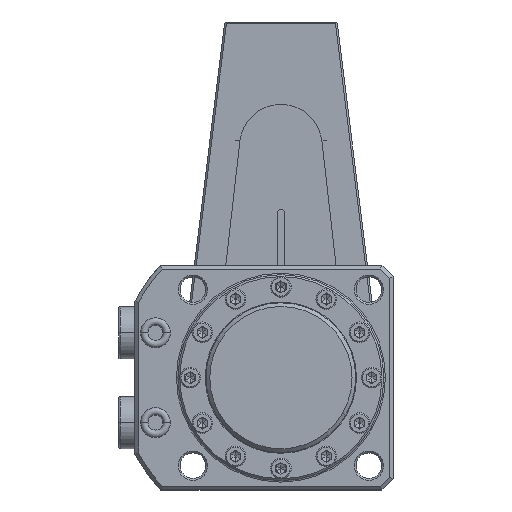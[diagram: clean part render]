
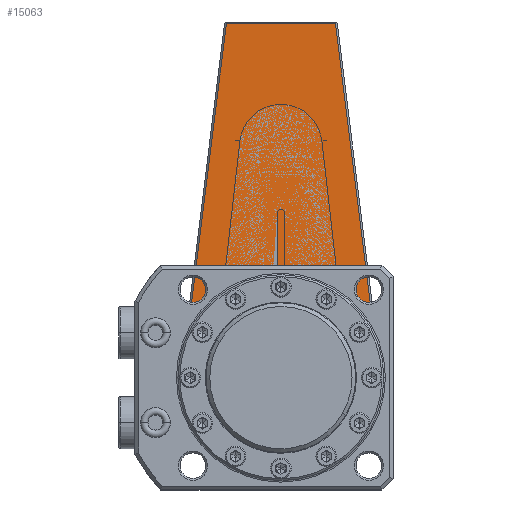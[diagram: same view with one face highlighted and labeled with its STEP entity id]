
A CAD part, front view. The second image highlights one B-rep face of the part: STEP entity #15063.
In plain terms, the highlighted planar face has unit normal (0, -1, 0).
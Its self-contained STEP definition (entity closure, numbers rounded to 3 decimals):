
#11821=DIRECTION('',(1.,0.,0.));
#11822=VECTOR('',#11821,16.31);
#11823=CARTESIAN_POINT('',(-29.5,-13.,1.));
#11824=LINE('',#11823,#11822);
#11825=DIRECTION('',(0.,0.,-1.));
#11826=VECTOR('',#11825,12.5);
#11827=CARTESIAN_POINT('',(-29.5,-13.,13.5));
#11828=LINE('',#11827,#11826);
#11829=DIRECTION('',(-0.707,0.,-0.707));
#11830=VECTOR('',#11829,1.414);
#11831=CARTESIAN_POINT('',(-28.5,-13.,14.5));
#11832=LINE('',#11831,#11830);
#11833=DIRECTION('',(-1.,0.,0.));
#11834=VECTOR('',#11833,24.);
#11835=CARTESIAN_POINT('',(-4.5,-13.,14.5));
#11836=LINE('',#11835,#11834);
#11837=DIRECTION('',(0.,0.,-1.));
#11838=VECTOR('',#11837,10.);
#11839=CARTESIAN_POINT('',(-4.5,-13.,24.5));
#11840=LINE('',#11839,#11838);
#11841=DIRECTION('',(-1.,0.,0.));
#11842=VECTOR('',#11841,19.469);
#11843=CARTESIAN_POINT('',(14.969,-13.,24.5));
#11844=LINE('',#11843,#11842);
#11845=DIRECTION('',(-0.992,0.,0.124));
#11846=VECTOR('',#11845,80.15);
#11847=CARTESIAN_POINT('',(94.5,-13.,14.559));
#11848=LINE('',#11847,#11846);
#11849=DIRECTION('',(0.,0.,1.));
#11850=VECTOR('',#11849,29.117);
#11851=CARTESIAN_POINT('',(94.5,-13.,-14.559));
#11852=LINE('',#11851,#11850);
#11853=DIRECTION('',(0.992,0.,0.124));
#11854=VECTOR('',#11853,80.15);
#11855=CARTESIAN_POINT('',(14.969,-13.,-24.5));
#11856=LINE('',#11855,#11854);
#11857=DIRECTION('',(1.,0.,0.));
#11858=VECTOR('',#11857,19.469);
#11859=CARTESIAN_POINT('',(-4.5,-13.,-24.5));
#11860=LINE('',#11859,#11858);
#11861=DIRECTION('',(0.,0.,-1.));
#11862=VECTOR('',#11861,10.);
#11863=CARTESIAN_POINT('',(-4.5,-13.,-14.5));
#11864=LINE('',#11863,#11862);
#11865=DIRECTION('',(1.,0.,0.));
#11866=VECTOR('',#11865,24.);
#11867=CARTESIAN_POINT('',(-28.5,-13.,-14.5));
#11868=LINE('',#11867,#11866);
#11869=DIRECTION('',(0.707,0.,-0.707));
#11870=VECTOR('',#11869,1.414);
#11871=CARTESIAN_POINT('',(-29.5,-13.,-13.5));
#11872=LINE('',#11871,#11870);
#11873=DIRECTION('',(0.,0.,-1.));
#11874=VECTOR('',#11873,12.5);
#11875=CARTESIAN_POINT('',(-29.5,-13.,-1.));
#11876=LINE('',#11875,#11874);
#11877=DIRECTION('',(1.,0.,0.));
#11878=VECTOR('',#11877,16.31);
#11879=CARTESIAN_POINT('',(-29.5,-13.,-1.));
#11880=LINE('',#11879,#11878);
#11886=CARTESIAN_POINT('',(0.,-13.,0.));
#11887=DIRECTION('',(0.,1.,0.));
#11888=DIRECTION('',(-0.997,0.,0.076));
#11889=AXIS2_PLACEMENT_3D('',#11886,#11887,#11888);
#11997=CARTESIAN_POINT('',(-13.19,-13.,
-1.));
#12177=CARTESIAN_POINT('',(-13.19,-13.,
1.));
#14733=CARTESIAN_POINT('',(-28.5,-13.,14.5));
#14735=VERTEX_POINT('',#14733);
#14739=CARTESIAN_POINT('',(-4.5,-13.,14.5));
#14740=VERTEX_POINT('',#14739);
#14745=CARTESIAN_POINT('',(94.5,-13.,-14.559));
#14746=CARTESIAN_POINT('',(94.5,-13.,14.559));
#14747=VERTEX_POINT('',#14745);
#14748=VERTEX_POINT('',#14746);
#14758=CARTESIAN_POINT('',(-28.5,-13.,-14.5));
#14760=VERTEX_POINT('',#14758);
#14761=CARTESIAN_POINT('',(-4.5,-13.,-14.5));
#14762=VERTEX_POINT('',#14761);
#14781=CARTESIAN_POINT('',(-29.5,-13.,-13.5));
#14783=VERTEX_POINT('',#14781);
#14787=CARTESIAN_POINT('',(-29.5,-13.,-1.));
#14788=VERTEX_POINT('',#14787);
#14789=CARTESIAN_POINT('',(-29.5,-13.,1.));
#14791=VERTEX_POINT('',#14789);
#14795=CARTESIAN_POINT('',(-29.5,-13.,13.5));
#14796=VERTEX_POINT('',#14795);
#14798=VERTEX_POINT('',#12177);
#14799=VERTEX_POINT('',#11997);
#14845=CARTESIAN_POINT('',(-4.5,-13.,-24.5));
#14846=VERTEX_POINT('',#14845);
#14847=CARTESIAN_POINT('',(14.969,-13.,-24.5));
#14848=VERTEX_POINT('',#14847);
#14873=CARTESIAN_POINT('',(14.969,-13.,24.5));
#14874=VERTEX_POINT('',#14873);
#14875=CARTESIAN_POINT('',(-4.5,-13.,24.5));
#14876=VERTEX_POINT('',#14875);
#15024=CARTESIAN_POINT('',(0.,-13.,0.));
#15025=DIRECTION('',(0.,1.,0.));
#15026=DIRECTION('',(1.,0.,0.));
#15027=AXIS2_PLACEMENT_3D('',#15024,#15025,#15026);
#15028=PLANE('',#15027);
#15030=ORIENTED_EDGE('',*,*,#15029,.F.);
#15032=ORIENTED_EDGE('',*,*,#15031,.F.);
#15034=ORIENTED_EDGE('',*,*,#15033,.F.);
#15036=ORIENTED_EDGE('',*,*,#15035,.F.);
#15038=ORIENTED_EDGE('',*,*,#15037,.F.);
#15040=ORIENTED_EDGE('',*,*,#15039,.F.);
#15042=ORIENTED_EDGE('',*,*,#15041,.F.);
#15044=ORIENTED_EDGE('',*,*,#15043,.F.);
#15046=ORIENTED_EDGE('',*,*,#15045,.F.);
#15048=ORIENTED_EDGE('',*,*,#15047,.F.);
#15050=ORIENTED_EDGE('',*,*,#15049,.F.);
#15052=ORIENTED_EDGE('',*,*,#15051,.F.);
#15054=ORIENTED_EDGE('',*,*,#15053,.F.);
#15056=ORIENTED_EDGE('',*,*,#15055,.F.);
#15058=ORIENTED_EDGE('',*,*,#15057,.F.);
#15060=ORIENTED_EDGE('',*,*,#15059,.T.);
#15061=EDGE_LOOP('',(#15030,#15032,#15034,#15036,#15038,#15040,#15042,#15044,
#15046,#15048,#15050,#15052,#15054,#15056,#15058,#15060));
#15062=FACE_OUTER_BOUND('',#15061,.F.);
#15063=ADVANCED_FACE('',(#15062),#15028,.F.);
#11890=CIRCLE('',#11889,13.228);
#15029=EDGE_CURVE('',#14798,#14799,#11890,.T.);
#15031=EDGE_CURVE('',#14791,#14798,#11824,.T.);
#15033=EDGE_CURVE('',#14796,#14791,#11828,.T.);
#15035=EDGE_CURVE('',#14735,#14796,#11832,.T.);
#15037=EDGE_CURVE('',#14740,#14735,#11836,.T.);
#15039=EDGE_CURVE('',#14876,#14740,#11840,.T.);
#15041=EDGE_CURVE('',#14874,#14876,#11844,.T.);
#15043=EDGE_CURVE('',#14748,#14874,#11848,.T.);
#15045=EDGE_CURVE('',#14747,#14748,#11852,.T.);
#15047=EDGE_CURVE('',#14848,#14747,#11856,.T.);
#15049=EDGE_CURVE('',#14846,#14848,#11860,.T.);
#15051=EDGE_CURVE('',#14762,#14846,#11864,.T.);
#15053=EDGE_CURVE('',#14760,#14762,#11868,.T.);
#15055=EDGE_CURVE('',#14783,#14760,#11872,.T.);
#15057=EDGE_CURVE('',#14788,#14783,#11876,.T.);
#15059=EDGE_CURVE('',#14788,#14799,#11880,.T.);
